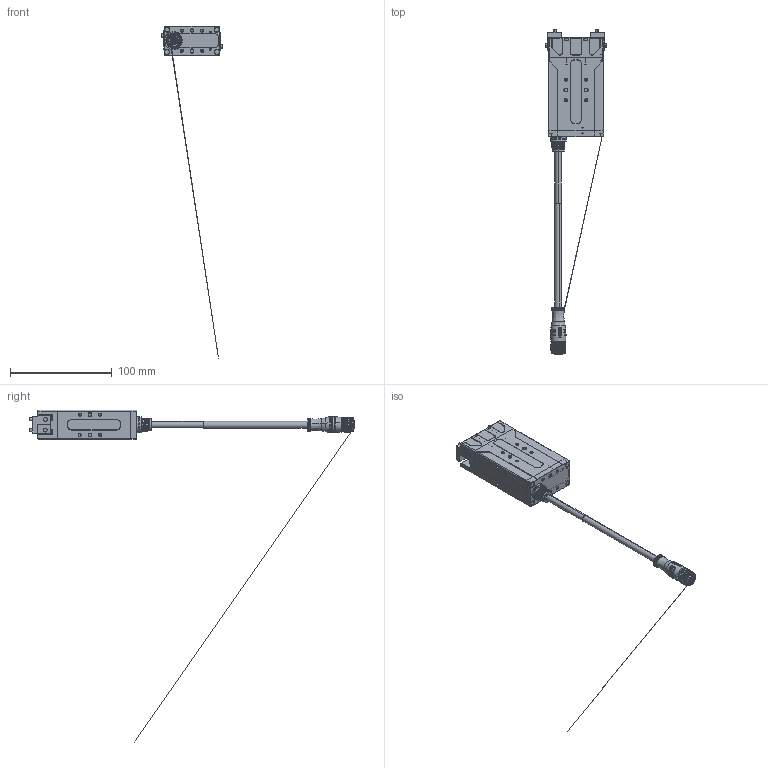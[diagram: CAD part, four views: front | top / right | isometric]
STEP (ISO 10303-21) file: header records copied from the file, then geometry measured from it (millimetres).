
FILE_DESCRIPTION (( 'STEP AP214' ), '1' );
FILE_NAME ('PGE-50-26-O-B.STEP', '2023-07-19T03:25:32', ( '' ), ( '' ), 'SwSTEP 2.0', 'SolidWorks 2020', '' );
FILE_SCHEMA (( 'AUTOMOTIVE_DESIGN' ));
Length unit declared in the file: millimetre
Products named in the file (3): PGE50忒硌價釱; 菁堤褲; PGE-50-26-O-B
Assembly tree (3 placements, depth 2):
  PGE-50-26-O-B
    菁堤褲
    PGE50忒硌價釱  x2
Bounding box: 59.8 x 320.3 x 326.56 mm (x, y, z)
Volume: 12225.4 mm3; surface area: 45660.3 mm2
Topology: 6 solids, 19 shells, 1681 faces, 4089 edges, 2529 vertices
Faces by surface type: plane 711, cylinder 379, cone 311, bspline 249, torus 30, sphere 1
Full cylindrical faces by diameter (mm): 11.1 x3
Entity records: 79799 total; most frequent: CARTESIAN_POINT 27682, ORIENTED_EDGE 7602, DIRECTION 6490, EDGE_CURVE 3805, VERTEX_POINT 2384, AXIS2_PLACEMENT_3D 2331, VECTOR 1828, LINE 1828
